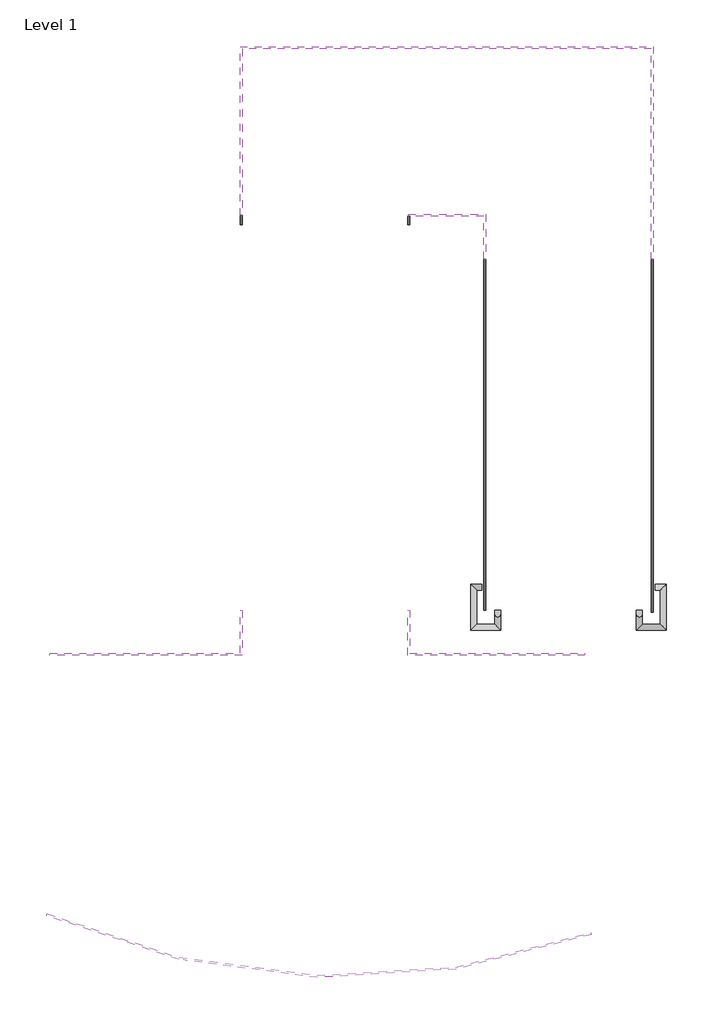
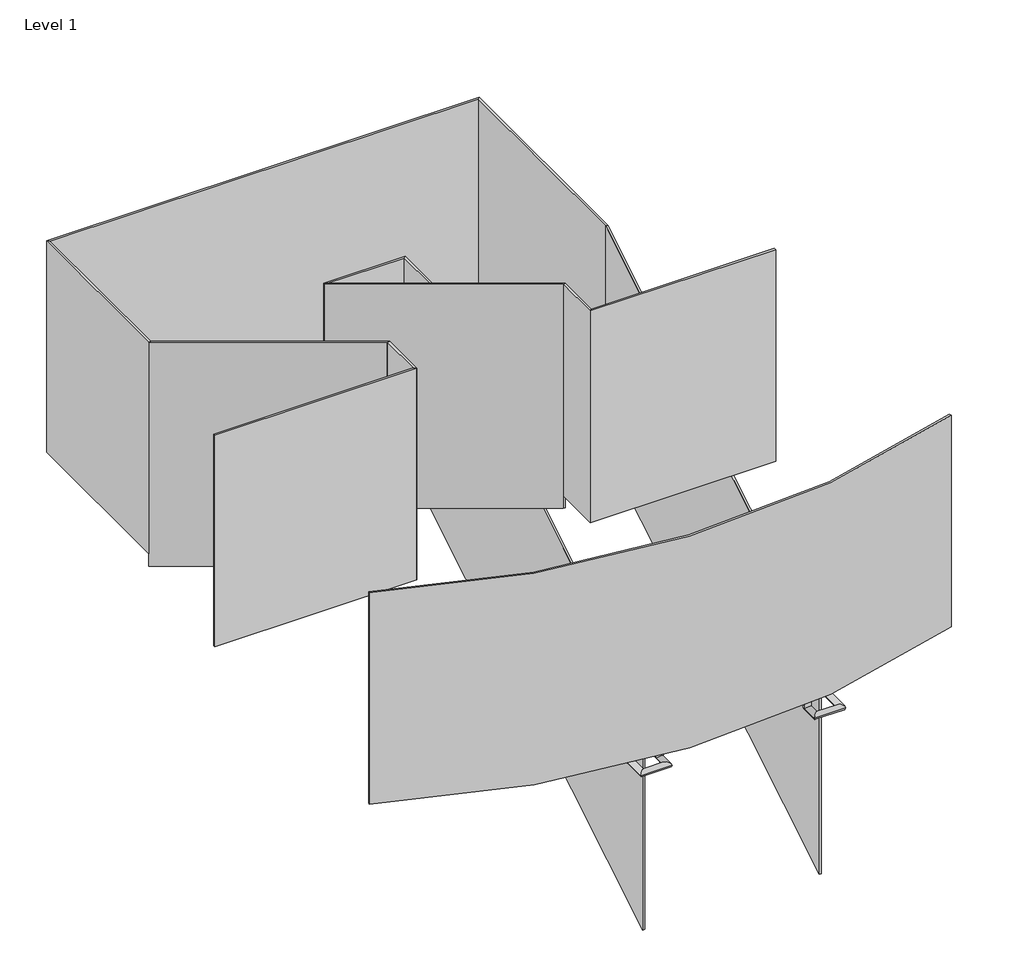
# One storey, incomplete: 9 railings, 2 proxies.
"""IFC4 building model written with IfcOpenShell, lengths in millimetres."""

from ifc_helpers import new_model, si_unit, origin, place, context, project, spatial, transform, mapped, element, save
from components import generic_models_50799680, generic_models_33d2c56b, button_glass_railing_on_landing_7a07d2da, button_glass_railing_on_landing_587f0cf4, button_glass_railing_on_landing_518581e0, button_glass_railing_on_landing_224fd9d0, button_glass_railing_on_landing_e7fbc1ca, button_glass_railing_on_stairs_7fb2a7b6, button_glass_railing_on_stairs_c400c547, button_glass_railing_on_stairs_3668c12f, button_glass_railing_on_stairs_e502715b

model = new_model("IFC4")

# Units and contexts
model_context = context("Model", 3, world=origin())
ifc_project = project(units=[si_unit("LENGTHUNIT", "METRE", prefix="MILLI")], contexts=[model_context])

# Site, building, storey
site = spatial("IfcSite", under=ifc_project)
building = spatial("IfcBuilding", under=site)
storey = spatial("IfcBuildingStorey", under=building, Name="Level 1", Elevation=0.0)

# Proxies
placement = place(None, origin())
generic_models_shape = generic_models_50799680(model_context)
element("IfcBuildingElementProxy", 1, Name="Livers Bronze-090310-Ver1-Button Rail End : Livers Bronze-090429-Ver1-Button Rail End Bottom", ObjectType="Livers Bronze-090310-Ver1-Button Rail End : Livers Bronze-090429-Ver1-Button Rail End Bottom", at=placement, inside=storey, context=model_context, shape_type="MappedRepresentation", body=[
    mapped(generic_models_shape, transform((4603.4949776, 2188.5391249, 905.2134259), x_axis=(1.0, 0.0, 0.0), y_axis=(0.0, 1.0, 0.0), z_axis=(0.0, 0.0, 1.0))),
])
generic_models_2_shape = generic_models_33d2c56b(model_context)
element("IfcBuildingElementProxy", 2, Name="Livers Bronze-090310-Ver1-Button Rail End : Livers Bronze-090429-Ver1-Button Rail End Bottom", ObjectType="Livers Bronze-090310-Ver1-Button Rail End : Livers Bronze-090429-Ver1-Button Rail End Bottom", at=placement, inside=storey, context=model_context, shape_type="MappedRepresentation", body=[
    mapped(generic_models_2_shape, transform((3701.709387, 2188.5391249, 905.2134259), x_axis=(-1.0, 0.0, 0.0), y_axis=(0.0, -1.0, 0.0), z_axis=(0.0, 0.0, 1.0))),
])

# Railings
button_glass_railing_on_landing_shape = button_glass_railing_on_landing_7a07d2da(model_context)
element("IfcRailing", 3, ObjectType="Button- Glass Railing on Landing", at=placement, inside=storey, context=model_context, shape_type="MappedRepresentation", body=[
    mapped(button_glass_railing_on_landing_shape, transform((0.0, 0.0, 0.0), x_axis=(1.0, 0.0, 0.0), y_axis=(0.0, 1.0, 0.0), z_axis=(0.0, 0.0, 1.0))),
])
button_glass_railing_on_landing_2_shape = button_glass_railing_on_landing_587f0cf4(model_context)
element("IfcRailing", 4, ObjectType="Button- Glass Railing on Landing", at=placement, inside=storey, context=model_context, shape_type="MappedRepresentation", body=[
    mapped(button_glass_railing_on_landing_2_shape, transform((0.0, 0.0, 0.0), x_axis=(1.0, 0.0, 0.0), y_axis=(0.0, 1.0, 0.0), z_axis=(0.0, 0.0, 1.0))),
])
button_glass_railing_on_landing_3_shape = button_glass_railing_on_landing_518581e0(model_context)
element("IfcRailing", 5, ObjectType="Button- Glass Railing on Landing", at=placement, inside=storey, context=model_context, shape_type="MappedRepresentation", body=[
    mapped(button_glass_railing_on_landing_3_shape, transform((0.0, 0.0, 0.0), x_axis=(1.0, 0.0, 0.0), y_axis=(0.0, 1.0, 0.0), z_axis=(0.0, 0.0, 1.0))),
])
button_glass_railing_on_landing_4_shape = button_glass_railing_on_landing_224fd9d0(model_context)
element("IfcRailing", 6, ObjectType="Button- Glass Railing on Landing", at=placement, inside=storey, context=model_context, shape_type="MappedRepresentation", body=[
    mapped(button_glass_railing_on_landing_4_shape, transform((0.0, 0.0, 0.0), x_axis=(1.0, 0.0, 0.0), y_axis=(0.0, 1.0, 0.0), z_axis=(0.0, 0.0, 1.0))),
])
button_glass_railing_on_landing_5_shape = button_glass_railing_on_landing_e7fbc1ca(model_context)
element("IfcRailing", 7, ObjectType="Button- Glass Railing on Landing", at=placement, inside=storey, context=model_context, shape_type="MappedRepresentation", body=[
    mapped(button_glass_railing_on_landing_5_shape, transform((0.0, 0.0, 0.0), x_axis=(1.0, 0.0, 0.0), y_axis=(0.0, 1.0, 0.0), z_axis=(0.0, 0.0, 1.0))),
])
button_glass_railing_on_stairs_shape = button_glass_railing_on_stairs_7fb2a7b6(model_context)
element("IfcRailing", 8, ObjectType="Button- Glass Railing on Stairs", at=placement, inside=storey, context=model_context, shape_type="MappedRepresentation", body=[
    mapped(button_glass_railing_on_stairs_shape, transform((0.0, 0.0, 0.0), x_axis=(1.0, 0.0, 0.0), y_axis=(0.0, 1.0, 0.0), z_axis=(0.0, 0.0, 1.0))),
])
button_glass_railing_on_stairs_2_shape = button_glass_railing_on_stairs_c400c547(model_context)
element("IfcRailing", 9, ObjectType="Button- Glass Railing on Stairs", at=placement, inside=storey, context=model_context, shape_type="MappedRepresentation", body=[
    mapped(button_glass_railing_on_stairs_2_shape, transform((0.0, 0.0, 0.0), x_axis=(1.0, 0.0, 0.0), y_axis=(0.0, 1.0, 0.0), z_axis=(0.0, 0.0, 1.0))),
])
button_glass_railing_on_stairs_3_shape = button_glass_railing_on_stairs_3668c12f(model_context)
element("IfcRailing", 10, ObjectType="Button- Glass Railing on Stairs", at=placement, inside=storey, context=model_context, shape_type="MappedRepresentation", body=[
    mapped(button_glass_railing_on_stairs_3_shape, transform((0.0, 0.0, 0.0), x_axis=(1.0, 0.0, 0.0), y_axis=(0.0, 1.0, 0.0), z_axis=(0.0, 0.0, 1.0))),
])
button_glass_railing_on_stairs_4_shape = button_glass_railing_on_stairs_e502715b(model_context)
element("IfcRailing", 11, ObjectType="Button- Glass Railing on Stairs", at=placement, inside=storey, context=model_context, shape_type="MappedRepresentation", body=[
    mapped(button_glass_railing_on_stairs_4_shape, transform((0.0, 0.0, 0.0), x_axis=(1.0, 0.0, 0.0), y_axis=(0.0, 1.0, 0.0), z_axis=(0.0, 0.0, 1.0))),
])

save(model, "model.ifc")
